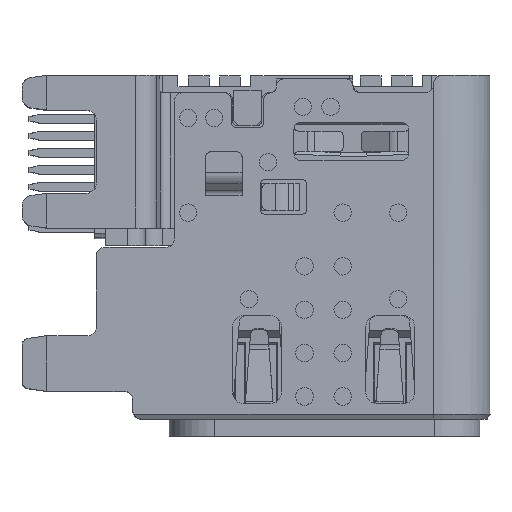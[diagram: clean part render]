
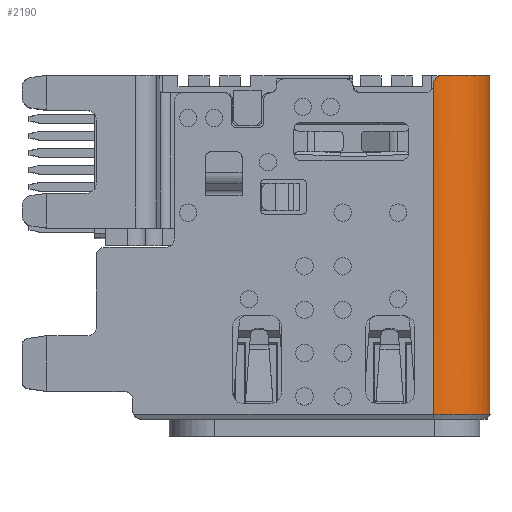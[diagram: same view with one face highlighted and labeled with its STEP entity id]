
A CAD part, top view. The second image highlights one B-rep face of the part: STEP entity #2190.
In plain terms, the highlighted cylindrical face has radius 1.625 mm (diameter 3.25 mm), a partial arc.
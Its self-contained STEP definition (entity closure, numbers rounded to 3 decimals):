
#85=B_SPLINE_CURVE_WITH_KNOTS('',3,(#37217,#37218,#37219,#37220,#37221,
#37222,#37223,#37224,#37225,#37226,#37227,#37228,#37229,#37230,#37231,#37232),
 .UNSPECIFIED.,.F.,.F.,(4,3,3,3,3,4),(0.,0.214,0.429,
0.643,0.856,1.),.UNSPECIFIED.);
#349=CYLINDRICAL_SURFACE('',#27099,1.625);
#814=FACE_OUTER_BOUND('',#5446,.T.);
#2190=ADVANCED_FACE('',(#814),#349,.T.);
#4561=CIRCLE('',#27002,1.625);
#4562=CIRCLE('',#27005,1.625);
#5446=EDGE_LOOP('',(#7793,#7794,#7795,#7796,#7797));
#7793=ORIENTED_EDGE('',*,*,#17485,.T.);
#7794=ORIENTED_EDGE('',*,*,#17505,.F.);
#7795=ORIENTED_EDGE('',*,*,#17632,.T.);
#7796=ORIENTED_EDGE('',*,*,#17502,.T.);
#7797=ORIENTED_EDGE('',*,*,#17490,.F.);
#14807=VERTEX_POINT('',#36994);
#14856=VERTEX_POINT('',#37206);
#14859=VERTEX_POINT('',#37233);
#14870=VERTEX_POINT('',#37257);
#14871=VERTEX_POINT('',#37263);
#17485=EDGE_CURVE('',#14807,#14856,#21124,.T.);
#17490=EDGE_CURVE('',#14807,#14859,#85,.T.);
#17502=EDGE_CURVE('',#14870,#14859,#4561,.T.);
#17505=EDGE_CURVE('',#14871,#14856,#4562,.T.);
#17632=EDGE_CURVE('',#14871,#14870,#21197,.T.);
#21124=LINE('',#37207,#24077);
#21197=LINE('',#37540,#24150);
#24077=VECTOR('',#29813,1.);
#24150=VECTOR('',#30104,1.);
#27002=AXIS2_PLACEMENT_3D('',#37256,#29845,#29846);
#27005=AXIS2_PLACEMENT_3D('',#37262,#29853,#29854);
#27099=AXIS2_PLACEMENT_3D('',#37541,#30105,#30106);
#29813=DIRECTION('',(0.,-1.,0.));
#29845=DIRECTION('',(0.,-1.,0.));
#29846=DIRECTION('',(1.,0.,0.));
#29853=DIRECTION('',(0.,-1.,0.));
#29854=DIRECTION('',(0.,0.,-1.));
#30104=DIRECTION('',(0.,1.,0.));
#30105=DIRECTION('',(0.,-1.,0.));
#30106=DIRECTION('',(1.,0.,0.));
#36994=CARTESIAN_POINT('',(3.436,5.163,14.584));
#37206=CARTESIAN_POINT('',(3.436,-4.349,14.584));
#37207=CARTESIAN_POINT('',(3.436,0.663,14.584));
#37217=CARTESIAN_POINT('',(3.436,5.163,14.584));
#37218=CARTESIAN_POINT('',(3.436,5.191,14.584));
#37219=CARTESIAN_POINT('',(3.441,5.219,14.584));
#37220=CARTESIAN_POINT('',(3.45,5.246,14.584));
#37221=CARTESIAN_POINT('',(3.459,5.272,14.584));
#37222=CARTESIAN_POINT('',(3.473,5.297,14.584));
#37223=CARTESIAN_POINT('',(3.491,5.319,14.584));
#37224=CARTESIAN_POINT('',(3.508,5.341,14.583));
#37225=CARTESIAN_POINT('',(3.529,5.36,14.582));
#37226=CARTESIAN_POINT('',(3.553,5.375,14.58));
#37227=CARTESIAN_POINT('',(3.577,5.389,14.579));
#37228=CARTESIAN_POINT('',(3.603,5.4,14.576));
#37229=CARTESIAN_POINT('',(3.63,5.406,14.573));
#37230=CARTESIAN_POINT('',(3.648,5.411,14.571));
#37231=CARTESIAN_POINT('',(3.667,5.413,14.568));
#37232=CARTESIAN_POINT('',(3.686,5.413,14.565));
#37233=CARTESIAN_POINT('',(3.686,5.413,14.565));
#37256=CARTESIAN_POINT('',(3.436,5.413,12.959));
#37257=CARTESIAN_POINT('',(5.061,5.413,12.959));
#37262=CARTESIAN_POINT('',(3.436,-4.349,12.959));
#37263=CARTESIAN_POINT('',(5.061,-4.349,12.959));
#37540=CARTESIAN_POINT('',(5.061,0.663,12.959));
#37541=CARTESIAN_POINT('',(3.436,0.663,12.959));
